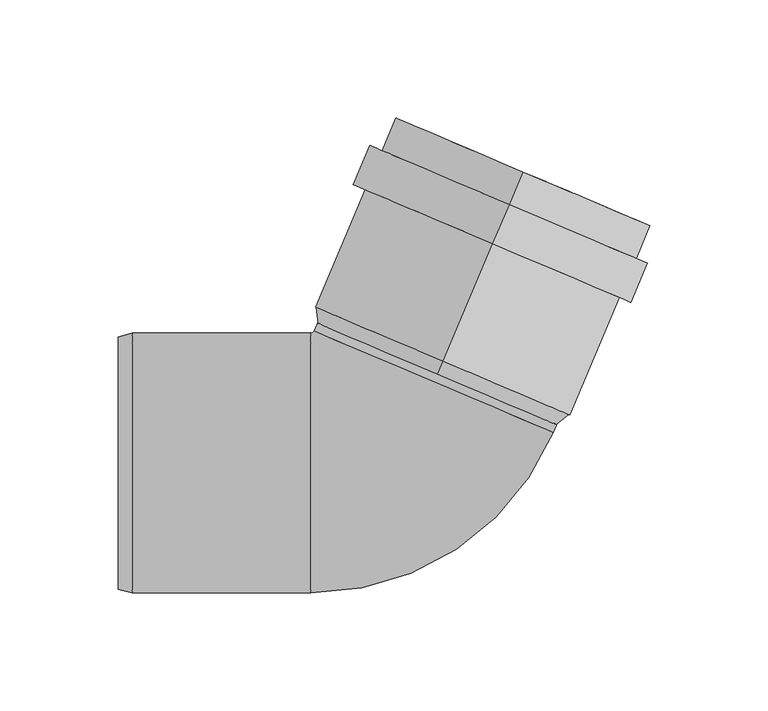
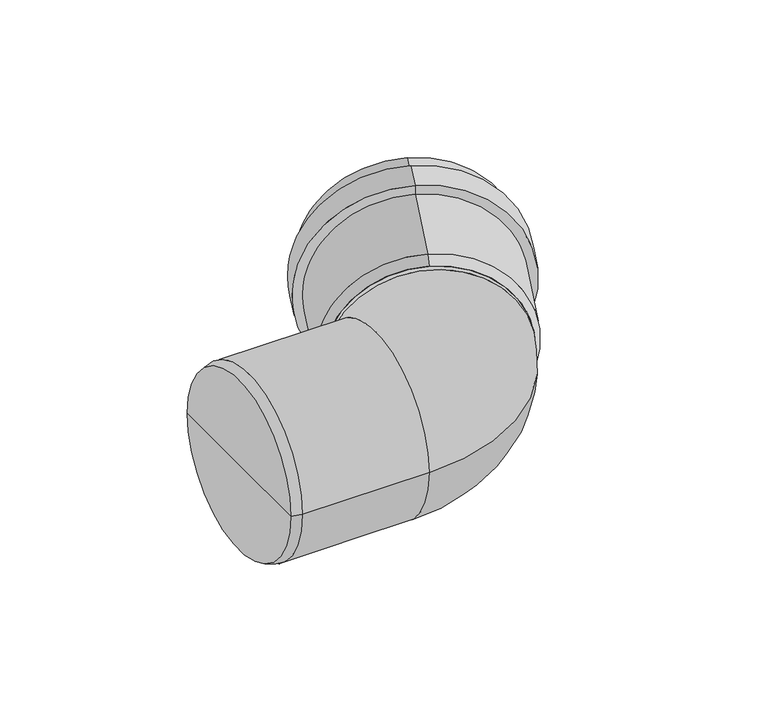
"""IFC4 building model written with IfcOpenShell, lengths in millimetres: pipe fitting geometry, OSMA_KG2000_PPKGB : Koleno 67°."""

from ifc_helpers import new_model, si_unit, point, frame, origin, place, context, project, spatial, polyline, circle_curve, ellipse_curve, trimmed, source, transform, mapped, element, save
from ifc_brep_helpers import plane_surface, cylinder_surface, revolved_surface, advanced_brep


def pipe_fitting_62fcc302(model_context):
    return source(origin(), model_context, "Body", "AdvancedBrep", [
        advanced_brep(
        [(18.364363, 43.2637281, 55.0), (18.364363, 43.2637281, -55.0), (52.3579712, 123.3476504, -55.0), (52.3579712, 123.3476504, 55.0), (39.463844, 92.9709902, 58.4), (39.463844, 92.9709902, -58.4), (18.364363, 43.2637281, -58.4), (18.364363, 43.2637281, 58.4), (39.463844, 92.9709902, 64.0), (39.463844, 92.9709902, -64.0), (46.4970043, 109.5400776, 64.0), (46.4970043, 109.5400776, -64.0), (46.4970043, 109.5400776, 58.4), (46.4970043, 109.5400776, -58.4), (52.3579712, 123.3476504, 58.4), (52.3579712, 123.3476504, -58.4), (16.0199763, 37.740699, 51.6), (16.0199763, 37.740699, -51.6), (16.0199763, 37.740699, 55.0), (16.0199763, 37.740699, -55.0)],
        [
            (0, 1, circle_curve(frame((18.364363, 43.2637281, 0.0), z_axis=(-0.39073112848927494, -0.9205048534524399, 0.0), x_axis=(0.0, 0.0, -1.0000000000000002)), 55.0)),
            (1, 2),
            (2, 3, circle_curve(frame((52.3579712, 123.3476504, 0.0), z_axis=(0.39073112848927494, 0.9205048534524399, 0.0), x_axis=(0.0, 0.0, -1.0000000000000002)), 55.0)),
            (3, 0),
            (1, 0, circle_curve(frame((18.364363, 43.2637281, 0.0), z_axis=(-0.39073112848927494, -0.9205048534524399, 0.0), x_axis=(0.0, 0.0, -1.0000000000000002)), 55.0)),
            (3, 2, circle_curve(frame((52.3579712, 123.3476504, 0.0), z_axis=(0.39073112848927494, 0.9205048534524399, 0.0), x_axis=(0.0, 0.0, -1.0000000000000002)), 55.0)),
            (4, 5, circle_curve(frame((39.463844, 92.9709902, 0.0), z_axis=(-0.39073112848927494, -0.9205048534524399, 0.0), x_axis=(0.0, 0.0, -1.0000000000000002)), 58.4)),
            (5, 6),
            (6, 7, circle_curve(frame((18.364363, 43.2637281, 0.0), z_axis=(0.39073112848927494, 0.9205048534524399, 0.0), x_axis=(0.0, 0.0, -1.0000000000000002)), 58.4)),
            (7, 4),
            (5, 4, circle_curve(frame((39.463844, 92.9709902, 0.0), z_axis=(-0.39073112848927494, -0.9205048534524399, 0.0), x_axis=(0.0, 0.0, -1.0000000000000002)), 58.4)),
            (7, 6, circle_curve(frame((18.364363, 43.2637281, 0.0), z_axis=(0.39073112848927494, 0.9205048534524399, 0.0), x_axis=(0.0, 0.0, -1.0000000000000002)), 58.4)),
            (8, 9, circle_curve(frame((39.463844, 92.9709902, 0.0), z_axis=(-0.39073112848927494, -0.9205048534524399, 0.0), x_axis=(0.0, 0.0, -1.0000000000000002)), 64.0)),
            (9, 5),
            (4, 8),
            (9, 8, circle_curve(frame((39.463844, 92.9709902, 0.0), z_axis=(-0.39073112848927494, -0.9205048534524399, 0.0), x_axis=(0.0, 0.0, -1.0000000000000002)), 64.0)),
            (10, 11, circle_curve(frame((46.4970043, 109.5400776, 0.0), z_axis=(-0.39073112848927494, -0.9205048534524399, 0.0), x_axis=(0.0, 0.0, -1.0000000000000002)), 64.0)),
            (11, 9),
            (8, 10),
            (11, 10, circle_curve(frame((46.4970043, 109.5400776, 0.0), z_axis=(-0.39073112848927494, -0.9205048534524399, 0.0), x_axis=(0.0, 0.0, -1.0000000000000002)), 64.0)),
            (12, 13, circle_curve(frame((46.4970043, 109.5400776, 0.0), z_axis=(-0.39073112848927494, -0.9205048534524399, 0.0), x_axis=(0.0, 0.0, -1.0000000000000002)), 58.4)),
            (13, 11),
            (10, 12),
            (13, 12, circle_curve(frame((46.4970043, 109.5400776, 0.0), z_axis=(-0.39073112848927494, -0.9205048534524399, 0.0), x_axis=(0.0, 0.0, -1.0000000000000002)), 58.4)),
            (14, 15, circle_curve(frame((52.3579712, 123.3476504, 0.0), z_axis=(-0.39073112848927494, -0.9205048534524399, 0.0), x_axis=(0.0, 0.0, -1.0000000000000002)), 58.4)),
            (15, 13),
            (12, 14),
            (15, 14, circle_curve(frame((52.3579712, 123.3476504, 0.0), z_axis=(-0.39073112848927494, -0.9205048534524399, 0.0), x_axis=(0.0, 0.0, -1.0000000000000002)), 58.4)),
            (2, 15),
            (14, 3),
            (16, 17, circle_curve(frame((16.0199763, 37.740699, 0.0), z_axis=(-0.39073112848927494, -0.9205048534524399, 0.0), x_axis=(0.0, 0.0, -1.0000000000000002)), 51.6)),
            (17, 1),
            (0, 16),
            (17, 16, circle_curve(frame((16.0199763, 37.740699, 0.0), z_axis=(-0.39073112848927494, -0.9205048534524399, 0.0), x_axis=(0.0, 0.0, -1.0000000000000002)), 51.6)),
            (18, 19, circle_curve(frame((16.0199763, 37.740699, 0.0), z_axis=(-0.39073112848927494, -0.9205048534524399, 0.0), x_axis=(0.0, 0.0, -1.0000000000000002)), 55.0)),
            (19, 17),
            (16, 18),
            (19, 18, circle_curve(frame((16.0199763, 37.740699, 0.0), z_axis=(-0.39073112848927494, -0.9205048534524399, 0.0), x_axis=(0.0, 0.0, -1.0000000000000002)), 55.0)),
            (6, 19),
            (18, 7),
        ],
        [
            revolved_surface(polyline([(52.357971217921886, 123.34765039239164, -55.000000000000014), (18.364363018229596, 43.26372809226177, -55.000000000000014)]), (1095.4046456, 2580.6116259, 0.0), (0.39073112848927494, 0.9205048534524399, 0.0)),
            cylinder_surface(frame((1095.4046456, 2580.6116259, 0.0), z_axis=(0.39073112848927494, 0.9205048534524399, 0.0), x_axis=(0.0, 0.0, -1.0000000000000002)), 58.4),
            plane_surface(frame((39.463844, 92.9709902, 0.0), z_axis=(-0.39073112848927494, -0.9205048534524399, 0.0), x_axis=(0.0, 0.0, -1.0))),
            cylinder_surface(frame((1095.4046456, 2580.6116259, 0.0), z_axis=(0.39073112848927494, 0.9205048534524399, 0.0), x_axis=(0.0, 0.0, -1.0000000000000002)), 64.0),
            plane_surface(frame((46.4970043, 109.5400776, 0.0), z_axis=(0.39073112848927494, 0.9205048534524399, 0.0), x_axis=(0.0, 0.0, -1.0))),
            plane_surface(frame((52.3579712, 123.3476504, 0.0), z_axis=(0.39073112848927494, 0.9205048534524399, 0.0), x_axis=(0.0, 0.0, -1.0))),
            revolved_surface(polyline([(18.364363, 43.2637281, -55.0), (16.0199763, 37.740699, -51.6)]), (1095.4046456, 2580.6116259, 0.0), (0.39073112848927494, 0.9205048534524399, 0.0)),
            plane_surface(frame((16.0199763, 37.740699, 0.0), z_axis=(-0.39073112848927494, -0.9205048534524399, 0.0), x_axis=(0.0, 0.0, -1.0))),
            revolved_surface(polyline([(16.0199763, 37.740699, -55.0), (18.364363, 43.2637281, -58.4)]), (1095.4046456, 2580.6116259, 0.0), (0.39073112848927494, 0.9205048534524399, 0.0)),
        ],
        [
            (0, [[1, 2, 3, 4]]),
            (0, [[5, -4, 6, -2]]),
            (1, [[7, 8, 9, 10]]),
            (1, [[11, -10, 12, -8]]),
            (2, [[13, 14, -7, 15]]),
            (2, [[16, -15, -11, -14]]),
            (3, [[17, 18, -13, 19]]),
            (3, [[20, -19, -16, -18]]),
            (4, [[21, 22, -17, 23]]),
            (4, [[24, -23, -20, -22]]),
            (1, [[25, 26, -21, 27]]),
            (1, [[28, -27, -24, -26]]),
            (5, [[-3, 29, -25, 30]]),
            (5, [[-6, -30, -28, -29]]),
            (6, [[31, 32, -1, 33]]),
            (6, [[34, -33, -5, -32]]),
            (7, [[35, 36, -31, 37]]),
            (7, [[38, -37, -34, -36]]),
            (8, [[-9, 39, -35, 40]]),
            (8, [[-12, -40, -38, -39]]),
        ],
    ),
        advanced_brep(
        [(-36.0157769, 55.9139033, 0.0), (-37.3965342, 55.0, 0.0), (-37.3965342, -55.0, 0.0), (65.239757, 12.9334792, 0.0), (14.61199, 34.4236912, 55.0), (14.61199, 34.4236912, -55.0), (-119.0, 0.0, 0.0), (-119.0, 53.3923048, 0.0), (-119.0, -53.3923048, 0.0), (-113.0, 55.0, 0.0), (-113.0, -55.0, 0.0), (68.99213, 21.773516, 0.0), (-32.2634039, 64.7539402, 0.0)],
        [
            (0, 1, circle_curve(frame((-37.3965342, 56.5, 0.0), z_axis=(0.0, 0.0, -1.0), x_axis=(0.0, -1.0, 0.0)), 1.5)),
            (1, 2, circle_curve(frame((-37.3965342, 0.0, 0.0), z_axis=(1.0, 0.0, 0.0), x_axis=(0.0, 1.0, 0.0)), 55.0)),
            (2, 3, circle_curve(frame((-37.3965342, 56.5, 0.0), z_axis=(0.0, 0.0, 1.0), x_axis=(0.0, -1.0, 0.0)), 111.5)),
            (3, 4, circle_curve(frame((14.61199, 34.4236912, 0.0), z_axis=(-0.3907311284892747, -0.9205048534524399, 0.0), x_axis=(-0.9205048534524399, 0.3907311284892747, 0.0)), 55.0)),
            (4, 0, circle_curve(frame((14.61199, 34.4236912, 0.0), z_axis=(-0.3907311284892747, -0.9205048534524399, 0.0), x_axis=(-0.9205048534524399, 0.3907311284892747, 0.0)), 55.0)),
            (0, 5, circle_curve(frame((14.61199, 34.4236912, 0.0), z_axis=(-0.3907311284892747, -0.9205048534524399, 0.0), x_axis=(-0.9205048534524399, 0.3907311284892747, 0.0)), 55.0)),
            (5, 3, circle_curve(frame((14.61199, 34.4236912, 0.0), z_axis=(-0.39073112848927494, -0.9205048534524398, 0.0), x_axis=(-0.9205048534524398, 0.39073112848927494, 0.0)), 55.0)),
            (2, 1, circle_curve(frame((-37.3965342, 0.0, 0.0), z_axis=(1.0, 0.0, 0.0), x_axis=(0.0, 1.0, 0.0)), 55.0)),
            (6, 7),
            (7, 8, circle_curve(frame((-119.0, 0.0, 0.0), z_axis=(-1.0, 0.0, 0.0), x_axis=(0.0, 1.0, 0.0)), 53.3923048)),
            (8, 6),
            (8, 7, circle_curve(frame((-119.0, 0.0, 0.0), z_axis=(-1.0, 0.0, 0.0), x_axis=(0.0, 1.0, 0.0)), 53.3923048)),
            (7, 9),
            (9, 10, circle_curve(frame((-113.0, 0.0, 0.0), z_axis=(-1.0, 0.0, 0.0), x_axis=(0.0, 1.0, 0.0)), 55.0)),
            (10, 8),
            (10, 9, circle_curve(frame((-113.0, 0.0, 0.0), z_axis=(-1.0, 0.0, 0.0), x_axis=(0.0, 1.0, 0.0)), 55.0)),
            (9, 1),
            (2, 10),
            (11, 12, circle_curve(frame((18.364363, 43.2637281, 0.0), z_axis=(0.3907311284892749, 0.9205048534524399, 0.0), x_axis=(-0.9205048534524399, 0.3907311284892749, 0.0)), 55.0)),
            (12, 11, circle_curve(frame((18.364363, 43.2637281, 0.0), z_axis=(0.3907311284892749, 0.9205048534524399, 0.0), x_axis=(-0.9205048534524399, 0.3907311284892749, 0.0)), 55.0)),
            (12, 0),
            (3, 11),
        ],
        [
            revolved_surface(trimmed(ellipse_curve(frame((-37.3965342, 0.0, 0.0), z_axis=(-1.0, 0.0, 0.0), x_axis=(0.0, 1.0, 0.0)), 55.0, 55.0), [point((-37.3965342, -55.0, 0.0))], [point((-37.3965342, 55.0, 0.0))], True, "CARTESIAN"), (-37.3965342, 56.5, 0.0), (0.0, 0.0, 1.0)),
            revolved_surface(trimmed(ellipse_curve(frame((-37.3965342, 0.0, 0.0), z_axis=(-1.0, 0.0, 0.0), x_axis=(0.0, 1.0, 0.0)), 55.0, 55.0), [point((-37.3965342, 55.0, 0.0))], [point((-37.3965342, -55.0, 0.0))], True, "CARTESIAN"), (-37.3965342, 56.5, 0.0), (0.0, 0.0, 1.0)),
            plane_surface(frame((-119.0, 0.0, 0.0), z_axis=(-1.0, 0.0, 0.0), x_axis=(0.0, 1.0, 0.0))),
            revolved_surface(polyline([(-113.0, 55.0, 0.0), (-119.0, 53.3923048, 0.0)]), (331.0587718, 0.0, 0.0), (-1.0, 0.0, 0.0)),
            cylinder_surface(frame((331.0587718, 0.0, 0.0), z_axis=(-1.0, 0.0, 0.0), x_axis=(0.0, 1.0, 0.0)), 55.0),
            plane_surface(frame((18.364363, 43.2637281, 0.0), z_axis=(0.3907311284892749, 0.9205048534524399, 0.0), x_axis=(0.0, 0.0, 1.0))),
            cylinder_surface(frame((14.61199, 34.4236912, 0.0), z_axis=(-0.3907311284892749, -0.9205048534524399, 0.0), x_axis=(-0.9205048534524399, 0.3907311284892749, 0.0)), 55.0),
        ],
        [
            (0, [[1, 2, 3, 4, 5]]),
            (1, [[-1, 6, 7, -3, 8]]),
            (2, [[9, 10, 11]]),
            (2, [[-9, -11, 12]]),
            (3, [[-10, 13, 14, 15]]),
            (3, [[-12, -15, 16, -13]]),
            (4, [[-14, 17, -8, 18]]),
            (4, [[-16, -18, -2, -17]]),
            (5, [[19, 20]]),
            (6, [[-20, 21, -5, -4, 22]]),
            (6, [[-19, -22, -7, -6, -21]]),
        ],
    ),
    ])


if __name__ == "__main__":
    model = new_model("IFC4")
    model_context = context("Model", 3, world=origin())
    ifc_project = project(units=[si_unit("LENGTHUNIT", "METRE", prefix="MILLI")], contexts=[model_context])
    site = spatial("IfcSite", under=ifc_project)
    building = spatial("IfcBuilding", under=site)
    placement = place(None, origin())
    pipe_fitting_shape = pipe_fitting_62fcc302(model_context)
    element("IfcPipeFitting", 1, ObjectType="OSMA_KG2000_PPKGB : Koleno 67°", at=placement, inside=building, context=model_context, shape_type="MappedRepresentation", body=[
        mapped(pipe_fitting_shape, transform((0.0, 0.0, 0.0), x_axis=(1.0, 0.0, 0.0), y_axis=(0.0, 1.0, 0.0), z_axis=(0.0, 0.0, 1.0))),
    ])
    save(model, "model.ifc")
